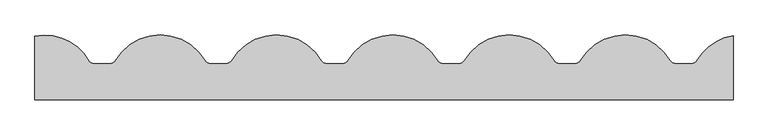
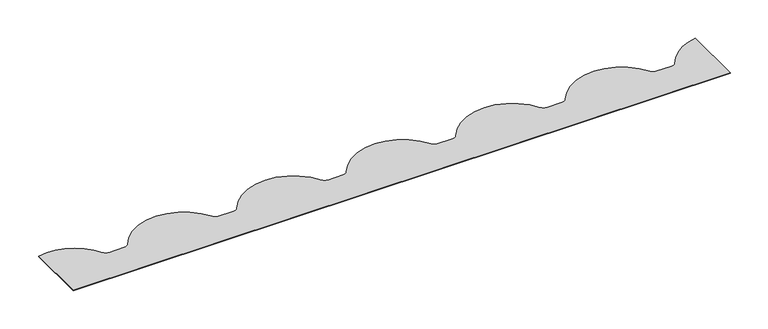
"""IFC4 building model written with IfcOpenShell, lengths in millimetres: proxy geometry, H20.F20.003-C-REMATES TEJA-Silueta : Silueta Teja - Panel 40mm."""

from ifc_helpers import new_model, si_unit, point, frame_2d, origin, origin_with_axes, place, context, project, spatial, polyline, circle_curve, trimmed, segment, composite_curve, outline, extrude, source, transform, mapped, element, save


def generic_models_1d7e2827(model_context):
    return source(origin(), model_context, "Body", "SweptSolid", [
        extrude(outline(composite_curve([segment(polyline([(0.0, 0.0), (0.0, 90.9171984)]), True, "CONTINUOUS"), segment(trimmed(circle_curve(frame_2d((14.6855969, 20.6027253)), 71.8316914), [point((0.0, 90.9171984))], [point((77.203918, 55.9757576))], False, "CARTESIAN"), True, "CONTINUOUS"), segment(trimmed(circle_curve(frame_2d((84.1180682, 60.0)), 8.0), [point((77.203918, 55.9757576))], [point((84.1180682, 52.0))], True, "CARTESIAN"), True, "CONTINUOUS"), segment(polyline([(84.1180682, 52.0), (108.1737204, 52.0)]), True, "CONTINUOUS"), segment(trimmed(circle_curve(frame_2d((108.1737204, 60.0)), 8.0), [point((108.1737204, 52.0))], [point((115.0878706, 55.9757576))], True, "CARTESIAN"), True, "CONTINUOUS"), segment(trimmed(circle_curve(frame_2d((179.4758943, 18.5)), 74.5), [point((115.0878706, 55.9757576))], [point((243.863918, 55.9757576))], False, "CARTESIAN"), True, "CONTINUOUS"), segment(trimmed(circle_curve(frame_2d((250.7780682, 60.0)), 8.0), [point((243.863918, 55.9757576))], [point((250.7780682, 52.0))], True, "CARTESIAN"), True, "CONTINUOUS"), segment(polyline([(250.7780682, 52.0), (274.8337204, 52.0)]), True, "CONTINUOUS"), segment(trimmed(circle_curve(frame_2d((274.8337204, 60.0)), 8.0), [point((274.8337204, 52.0))], [point((281.7478706, 55.9757576))], True, "CARTESIAN"), True, "CONTINUOUS"), segment(trimmed(circle_curve(frame_2d((346.1358943, 18.5)), 74.5), [point((281.7478706, 55.9757576))], [point((410.523918, 55.9757576))], False, "CARTESIAN"), True, "CONTINUOUS"), segment(trimmed(circle_curve(frame_2d((417.4380682, 60.0)), 8.0), [point((410.523918, 55.9757576))], [point((417.4380682, 52.0))], True, "CARTESIAN"), True, "CONTINUOUS"), segment(polyline([(417.4380682, 52.0), (441.4937204, 52.0)]), True, "CONTINUOUS"), segment(trimmed(circle_curve(frame_2d((441.4937204, 60.0)), 8.0), [point((441.4937204, 52.0))], [point((448.4078706, 55.9757576))], True, "CARTESIAN"), True, "CONTINUOUS"), segment(trimmed(circle_curve(frame_2d((512.7958943, 18.5)), 74.5), [point((448.4078706, 55.9757576))], [point((577.183918, 55.9757576))], False, "CARTESIAN"), True, "CONTINUOUS"), segment(trimmed(circle_curve(frame_2d((584.0980682, 60.0)), 8.0), [point((577.183918, 55.9757576))], [point((584.0980682, 52.0))], True, "CARTESIAN"), True, "CONTINUOUS"), segment(polyline([(584.0980682, 52.0), (608.1537204, 52.0)]), True, "CONTINUOUS"), segment(trimmed(circle_curve(frame_2d((608.1537204, 60.0)), 8.0), [point((608.1537204, 52.0))], [point((615.0678706, 55.9757576))], True, "CARTESIAN"), True, "CONTINUOUS"), segment(trimmed(circle_curve(frame_2d((679.4558943, 18.5)), 74.5), [point((615.0678706, 55.9757576))], [point((743.843918, 55.9757576))], False, "CARTESIAN"), True, "CONTINUOUS"), segment(trimmed(circle_curve(frame_2d((750.7580682, 60.0)), 8.0), [point((743.843918, 55.9757576))], [point((750.7580682, 52.0))], True, "CARTESIAN"), True, "CONTINUOUS"), segment(polyline([(750.7580682, 52.0), (774.8137204, 52.0)]), True, "CONTINUOUS"), segment(trimmed(circle_curve(frame_2d((774.8137204, 60.0)), 8.0), [point((774.8137204, 52.0))], [point((781.7278706, 55.9757576))], True, "CARTESIAN"), True, "CONTINUOUS"), segment(trimmed(circle_curve(frame_2d((846.1158943, 18.5)), 74.5), [point((781.7278706, 55.9757576))], [point((910.503918, 55.9757576))], False, "CARTESIAN"), True, "CONTINUOUS"), segment(trimmed(circle_curve(frame_2d((917.4180682, 60.0)), 8.0), [point((910.503918, 55.9757576))], [point((917.4180682, 52.0))], True, "CARTESIAN"), True, "CONTINUOUS"), segment(polyline([(917.4180682, 52.0), (941.4737204, 52.0)]), True, "CONTINUOUS"), segment(trimmed(circle_curve(frame_2d((941.4737204, 60.0)), 8.0), [point((941.4737204, 52.0))], [point((948.3878706, 55.9757576))], True, "CARTESIAN"), True, "CONTINUOUS"), segment(trimmed(circle_curve(frame_2d((1012.7758943, 18.5)), 74.5), [point((948.3878706, 55.9757576))], [point((1000.3814285, 91.9617398))], False, "CARTESIAN"), True, "CONTINUOUS"), segment(polyline([(1000.3814285, 91.9617398), (1000.3814285, 0.0), (0.0, 0.0)]), True, "CONTINUOUS")], self_intersect=False)), origin_with_axes(), (0.0, 0.0, 1.0), 0.8),
    ])


if __name__ == "__main__":
    model = new_model("IFC4")
    model_context = context("Model", 3, world=origin())
    ifc_project = project(units=[si_unit("LENGTHUNIT", "METRE", prefix="MILLI")], contexts=[model_context])
    site = spatial("IfcSite", under=ifc_project)
    building = spatial("IfcBuilding", under=site)
    placement = place(None, origin())
    generic_models_shape = generic_models_1d7e2827(model_context)
    element("IfcBuildingElementProxy", 1, Name="H20.F20.003-C-REMATES TEJA-Silueta : Silueta Teja - Panel 40mm", ObjectType="H20.F20.003-C-REMATES TEJA-Silueta : Silueta Teja - Panel 40mm", at=placement, inside=building, context=model_context, shape_type="MappedRepresentation", body=[
        mapped(generic_models_shape, transform((0.0, 0.0, 0.0), x_axis=(1.0, 0.0, 0.0), y_axis=(0.0, 1.0, 0.0), z_axis=(0.0, 0.0, 1.0))),
    ])
    save(model, "model.ifc")
